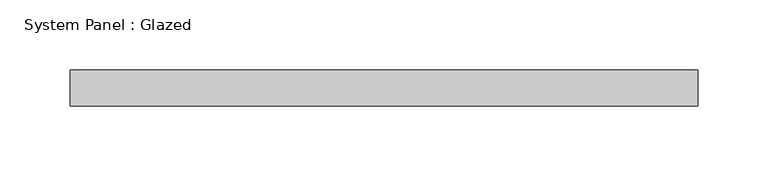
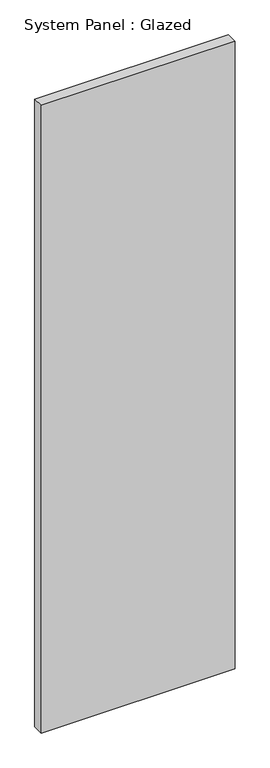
"""IFC4 building model written with IfcOpenShell, lengths in millimetres: plate geometry, System Panel : Glazed."""

import ifcopenshell
import ifcopenshell.guid

model = None  # the IFC model being written
_history = None  # IfcOwnerHistory: only IFC2X3 demands one
_inside = {}  # id of a spatial element -> (the spatial element, [elements in it])
_under = {}  # id of a project, library or spatial element -> (it, [spatial elements below it])
_declared = {}  # id of a project -> (the project, [libraries it declares])
_typed = {}  # id of a type object -> (the type object, [elements of that type])
_made_of = {}  # id of a material, layer set ... -> (it, [elements and type objects made of it])


def new_model(schema):
    """Start an empty IFC model of exactly this schema.

    Asked for "IFC4X3", IfcOpenShell would pick the latest addendum, in which some entities
    have other attributes; the version numbers below select the first issue.
    IFC2X3 requires an IfcOwnerHistory on every rooted entity: one is made here for all.
    """
    global model, _history
    if schema == "IFC4X3":
        model = ifcopenshell.file(schema_version=(4, 3, 0, 0))
    else:
        model = ifcopenshell.file(schema=schema)
    _inside.clear()
    _under.clear()
    _declared.clear()
    _typed.clear()
    _made_of.clear()
    _history = None
    if model.schema == "IFC2X3":
        org = make("IfcOrganization", Name="unknown")
        user = make(
            "IfcPersonAndOrganization",
            ThePerson=make("IfcPerson", FamilyName="unknown"),
            TheOrganization=org,
        )
        app = make(
            "IfcApplication",
            ApplicationDeveloper=org,
            Version="unknown",
            ApplicationFullName="unknown",
            ApplicationIdentifier="unknown",
        )
        _history = make(
            "IfcOwnerHistory",
            OwningUser=user,
            OwningApplication=app,
            ChangeAction="ADDED",
            CreationDate=0,
        )
    return model


def make(cls, **values):
    """One entity of the class cls with the attributes given. An attribute that is None is left unset."""
    return model.create_entity(
        cls, **{name: value for name, value in values.items() if value is not None}
    )


def rooted(cls, **values):
    """An entity with a GlobalId (a new one), such as an element, a storey or a relation."""
    return make(cls, GlobalId=ifcopenshell.guid.new(), OwnerHistory=_history, **values)


def si_unit(unit_type, name, prefix=None):
    """IfcSIUnit, for example si_unit("LENGTHUNIT", "METRE", prefix="MILLI")."""
    return make("IfcSIUnit", UnitType=unit_type, Prefix=prefix, Name=name)


def assignment(units):
    """IfcUnitAssignment: the units of a project."""
    return None if units is None else make("IfcUnitAssignment", Units=units)


def point(xyz):
    """IfcCartesianPoint."""
    return None if xyz is None else make("IfcCartesianPoint", Coordinates=xyz)


def direction(xyz):
    """IfcDirection."""
    return None if xyz is None else make("IfcDirection", DirectionRatios=xyz)


def frame(location, z_axis=None, x_axis=None):
    """IfcAxis2Placement3D, a coordinate frame: its origin and axes. An axis left out is left unset."""
    return make(
        "IfcAxis2Placement3D",
        Location=point(location),
        Axis=direction(z_axis),
        RefDirection=direction(x_axis),
    )


def origin():
    """The frame at (0, 0, 0) with its axes left unset."""
    return frame((0.0, 0.0, 0.0))


def origin_with_axes():
    """The frame at (0, 0, 0) with the z axis (0, 0, 1) and the x axis (1, 0, 0) written out."""
    return frame((0.0, 0.0, 0.0), z_axis=(0.0, 0.0, 1.0), x_axis=(1.0, 0.0, 0.0))


def place(relative_to, where):
    """IfcLocalPlacement: puts the frame where relative to a parent placement (None: the world)."""
    return make(
        "IfcLocalPlacement", PlacementRelTo=relative_to, RelativePlacement=where
    )


def context(
    kind, dimensions, precision=None, world=None, true_north=None, identifier=None
):
    """IfcGeometricRepresentationContext, for example the 3D "Model" context."""
    return make(
        "IfcGeometricRepresentationContext",
        ContextIdentifier=identifier,
        ContextType=kind,
        CoordinateSpaceDimension=dimensions,
        Precision=precision,
        WorldCoordinateSystem=world,
        TrueNorth=true_north,
    )


def project(units=None, contexts=None):
    """IfcProject with its units and contexts."""
    return rooted(
        "IfcProject",
        Name="project",
        RepresentationContexts=contexts,
        UnitsInContext=assignment(units),
    )


def spatial(cls, under=None, at=None, **own):
    """A site, building, storey or space (cls), placed at a placement, below another one or the project."""
    s = rooted(cls, ObjectPlacement=at, **own)
    if under is not None:
        _under.setdefault(under.id(), (under, []))[1].append(s)
    return s


def polyline(points):
    """IfcPolyline through the points."""
    return make("IfcPolyline", Points=[point(p) for p in points])


def outline(outer, holes=None, kind="AREA"):
    """IfcArbitraryClosedProfileDef: a profile drawn as a closed curve; with holes, ...WithVoids."""
    if holes is None:
        return make("IfcArbitraryClosedProfileDef", ProfileType=kind, OuterCurve=outer)
    return make(
        "IfcArbitraryProfileDefWithVoids",
        ProfileType=kind,
        OuterCurve=outer,
        InnerCurves=holes,
    )


def extrude(swept, where, along, depth):
    """IfcExtrudedAreaSolid: the profile swept, set in the frame where, extruded along a direction by depth."""
    return make(
        "IfcExtrudedAreaSolid",
        SweptArea=swept,
        Position=where,
        ExtrudedDirection=direction(along),
        Depth=depth,
    )


def shape(context_of_items, identifier, shape_type, items):
    """IfcShapeRepresentation: the items that make up one representation, for example the "Body"."""
    return make(
        "IfcShapeRepresentation",
        ContextOfItems=context_of_items,
        RepresentationIdentifier=identifier,
        RepresentationType=shape_type,
        Items=items,
    )


def source(mapping_origin, context_of_items, identifier, shape_type, items):
    """IfcRepresentationMap: a shape defined once, which mapped items show again and again."""
    return make(
        "IfcRepresentationMap",
        MappingOrigin=mapping_origin,
        MappedRepresentation=shape(context_of_items, identifier, shape_type, items),
    )


def transform(
    local_origin,
    x_axis=None,
    y_axis=None,
    z_axis=None,
    scale=None,
    scale2=None,
    scale3=None,
    uniform=True,
):
    """IfcCartesianTransformationOperator3D, or its non-uniform kind. x_axis, y_axis, z_axis: its Axis1, 2, 3."""
    if uniform:
        return make(
            "IfcCartesianTransformationOperator3D",
            Axis1=direction(x_axis),
            Axis2=direction(y_axis),
            LocalOrigin=point(local_origin),
            Scale=scale,
            Axis3=direction(z_axis),
        )
    return make(
        "IfcCartesianTransformationOperator3DnonUniform",
        Axis1=direction(x_axis),
        Axis2=direction(y_axis),
        LocalOrigin=point(local_origin),
        Scale=scale,
        Axis3=direction(z_axis),
        Scale2=scale2,
        Scale3=scale3,
    )


def mapped(mapping_source, mapping_target):
    """IfcMappedItem: shows the shape of a source again, moved by a transform."""
    return make(
        "IfcMappedItem", MappingSource=mapping_source, MappingTarget=mapping_target
    )


def made_of(thing, what):
    """Note that an element or type object is made of a material, layer set ...; save() writes the relation."""
    if what is not None:
        _made_of.setdefault(what.id(), (what, []))[1].append(thing)
    return thing


def element(
    cls,
    number,
    at=None,
    inside=None,
    cuts=None,
    type_object=None,
    material=None,
    context=None,
    identifier="Body",
    shape_type=None,
    held_by="IfcProductDefinitionShape",
    body=None,
    shapes=None,
    **own,
):
    """One element of the class cls, such as IfcWall. Its Tag is "e" and its number.

    at: its placement. inside: the storey or other place that contains it. cuts: it is an
    opening in that element (IfcRelVoidsElement). A single representation is given by context,
    identifier, shape_type and body (its items); several are given by shapes. held_by: the class
    of the entity that holds the representations. save() writes the other relations.
    """
    e = rooted(cls, Tag="e%d" % number, ObjectPlacement=at, **own)
    if body is not None:
        shapes = [shape(context, identifier, shape_type, body)]
    if shapes is not None:
        e.Representation = make(held_by, Representations=shapes)
    if inside is not None:
        _inside.setdefault(inside.id(), (inside, []))[1].append(e)
    if cuts is not None:
        rooted(
            "IfcRelVoidsElement", RelatingBuildingElement=cuts, RelatedOpeningElement=e
        )
    if type_object is not None:
        _typed.setdefault(type_object.id(), (type_object, []))[1].append(e)
    return made_of(e, material)


def aggregate(whole, parts):
    """IfcRelAggregates: a whole, such as a stair, and the parts it consists of."""
    return rooted("IfcRelAggregates", RelatingObject=whole, RelatedObjects=parts)


def save(model, path):
    """Write the relations noted so far, then the file.

    IfcRelAggregates (storeys below a building ...), IfcRelContainedInSpatialStructure (elements
    in a storey), IfcRelDefinesByType, IfcRelAssociatesMaterial and IfcRelDeclares: one each for
    every whole, place, type object, material and project.
    """
    for whole, parts in _under.values():
        aggregate(whole, parts)
    for where, things in _inside.values():
        rooted(
            "IfcRelContainedInSpatialStructure",
            RelatedElements=things,
            RelatingStructure=where,
        )
    for kind, things in _typed.values():
        rooted("IfcRelDefinesByType", RelatedObjects=things, RelatingType=kind)
    for what, things in _made_of.values():
        rooted("IfcRelAssociatesMaterial", RelatedObjects=things, RelatingMaterial=what)
    for by, libraries in _declared.values():
        rooted("IfcRelDeclares", RelatingContext=by, RelatedDefinitions=libraries)
    model.write(path)


def system_panel_glazed_3beef6a9(model_context):
    return source(origin(), model_context, "Body", "SweptSolid", [
        extrude(outline(polyline([(222.6119514, 19.05), (-222.6119514, 19.05), (-222.6119514, 44.45), (222.6119514, 44.45), (222.6119514, 19.05)])), origin_with_axes(), (0.0, 0.0, 1.0), 1524.0),
    ])


if __name__ == "__main__":
    model = new_model("IFC4")
    model_context = context("Model", 3, world=origin())
    ifc_project = project(units=[si_unit("LENGTHUNIT", "METRE", prefix="MILLI")], contexts=[model_context])
    site = spatial("IfcSite", under=ifc_project)
    building = spatial("IfcBuilding", under=site)
    placement = place(None, origin())
    system_panel_glazed_shape = system_panel_glazed_3beef6a9(model_context)
    element("IfcPlate", 1, ObjectType="System Panel : Glazed", at=placement, inside=building, context=model_context, shape_type="MappedRepresentation", body=[
        mapped(system_panel_glazed_shape, transform((0.0, 0.0, 0.0), x_axis=(1.0, 0.0, 0.0), y_axis=(0.0, 1.0, 0.0), z_axis=(0.0, 0.0, 1.0))),
    ])
    save(model, "model.ifc")
